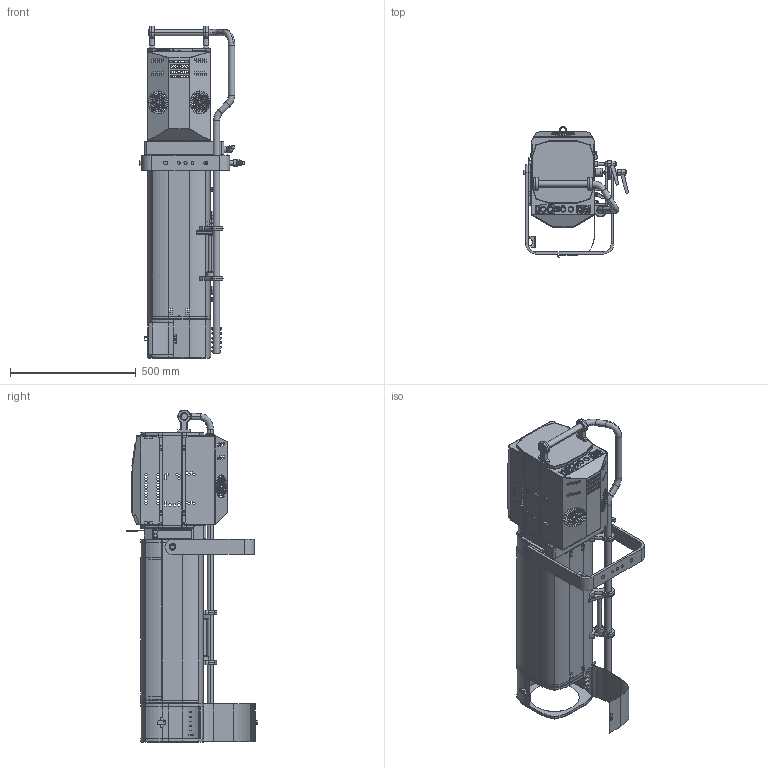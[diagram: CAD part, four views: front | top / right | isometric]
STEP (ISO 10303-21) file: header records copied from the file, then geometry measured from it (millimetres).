
FILE_DESCRIPTION (( 'STEP AP203' ), '1' );
FILE_NAME ('CAD__OZ CAD client.STEP', '2018-07-10T12:46:52', ( '' ), ( '' ), 'SwSTEP 2.0', 'SolidWorks 2018', '' );
FILE_SCHEMA (( 'CONFIG_CONTROL_DESIGN' ));
Length unit declared in the file: millimetre
Products named in the file (1): CAD__OZ CAD client
Bounding box: 418.63 x 519.99 x 1321.4 mm (x, y, z)
Volume: 4248955.2 mm3; surface area: 4240450.6 mm2
Topology: 130 solids, 130 shells, 4019 faces, 9878 edges, 6068 vertices
Faces by surface type: plane 2819, cylinder 833, torus 191, bspline 98, cone 48, sphere 30
Entity records: 119834 total; most frequent: CARTESIAN_POINT 24021, ORIENTED_EDGE 19728, DIRECTION 19570, EDGE_CURVE 9864, LINE 7362, VECTOR 7362, AXIS2_PLACEMENT_3D 6104, VERTEX_POINT 6068
